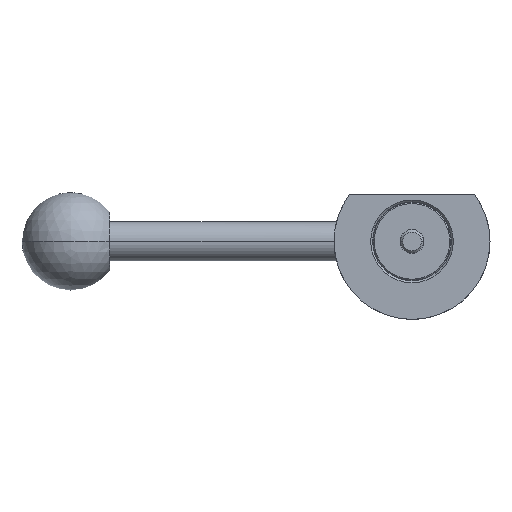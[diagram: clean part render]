
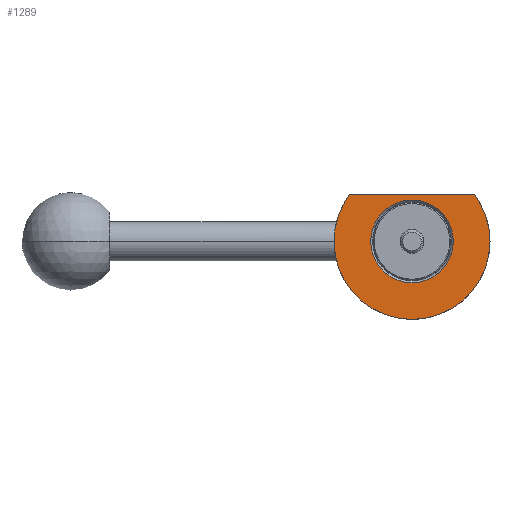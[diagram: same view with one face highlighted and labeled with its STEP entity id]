
A CAD part, front view. The second image highlights one B-rep face of the part: STEP entity #1289.
In plain terms, the highlighted planar face has unit normal (0, -1, 0).
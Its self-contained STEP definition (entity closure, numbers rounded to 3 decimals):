
#25 = VERTEX_POINT ( 'NONE', #1083 ) ;
#47 = AXIS2_PLACEMENT_3D ( 'NONE', #820, #1571, #169 ) ;
#126 = ORIENTED_EDGE ( 'NONE', *, *, #1240, .F. ) ;
#130 = VERTEX_POINT ( 'NONE', #1406 ) ;
#145 = DIRECTION ( 'NONE',  ( 0., 1., 0. ) ) ;
#158 = DIRECTION ( 'NONE',  ( -1., 0., 0. ) ) ;
#168 = DIRECTION ( 'NONE',  ( -1., 0., 0. ) ) ;
#169 = DIRECTION ( 'NONE',  ( -1., 0., 0. ) ) ;
#203 = EDGE_CURVE ( 'NONE', #1901, #1988, #929, .T. ) ;
#258 = EDGE_LOOP ( 'NONE', ( #126, #1148, #623, #605 ) ) ;
#284 = VERTEX_POINT ( 'NONE', #1754 ) ;
#326 = LINE ( 'NONE', #947, #1940 ) ;
#352 = CIRCLE ( 'NONE', #807, 20. ) ;
#471 = DIRECTION ( 'NONE',  ( 1., 0., 0. ) ) ;
#522 = EDGE_CURVE ( 'NONE', #130, #25, #1812, .T. ) ;
#605 = ORIENTED_EDGE ( 'NONE', *, *, #203, .F. ) ;
#623 = ORIENTED_EDGE ( 'NONE', *, *, #1168, .F. ) ;
#660 = CARTESIAN_POINT ( 'NONE',  ( 0., -10., 0. ) ) ;
#755 = CARTESIAN_POINT ( 'NONE',  ( 0., -10., 0. ) ) ;
#761 = EDGE_CURVE ( 'NONE', #284, #1247, #326, .T. ) ;
#770 = CARTESIAN_POINT ( 'NONE',  ( -10.6, -10., 0. ) ) ;
#807 = AXIS2_PLACEMENT_3D ( 'NONE', #1987, #1099, #1680 ) ;
#820 = CARTESIAN_POINT ( 'NONE',  ( 0., -10., 0. ) ) ;
#856 = CARTESIAN_POINT ( 'NONE',  ( -20., -10., 0. ) ) ;
#874 = AXIS2_PLACEMENT_3D ( 'NONE', #1043, #1522, #1209 ) ;
#904 = FACE_OUTER_BOUND ( 'NONE', #258, .T. ) ;
#913 = DIRECTION ( 'NONE',  ( 0., -1., 0. ) ) ;
#929 = CIRCLE ( 'NONE', #47, 20. ) ;
#932 = EDGE_CURVE ( 'NONE', #25, #130, #1129, .T. ) ;
#947 = CARTESIAN_POINT ( 'NONE',  ( -10.6, -10., 11.999 ) ) ;
#1043 = CARTESIAN_POINT ( 'NONE',  ( 0., -10., 0. ) ) ;
#1083 = CARTESIAN_POINT ( 'NONE',  ( -10.6, -10., 0. ) ) ;
#1096 = AXIS2_PLACEMENT_3D ( 'NONE', #755, #145, #158 ) ;
#1099 = DIRECTION ( 'NONE',  ( 0., 1., 0. ) ) ;
#1129 = CIRCLE ( 'NONE', #1198, 10.6 ) ;
#1148 = ORIENTED_EDGE ( 'NONE', *, *, #761, .T. ) ;
#1168 = EDGE_CURVE ( 'NONE', #1988, #1247, #352, .T. ) ;
#1198 = AXIS2_PLACEMENT_3D ( 'NONE', #660, #1921, #1899 ) ;
#1209 = DIRECTION ( 'NONE',  ( -1., 0., 0. ) ) ;
#1240 = EDGE_CURVE ( 'NONE', #284, #1901, #1977, .T. ) ;
#1247 = VERTEX_POINT ( 'NONE', #1719 ) ;
#1250 = ORIENTED_EDGE ( 'NONE', *, *, #522, .T. ) ;
#1289 = ADVANCED_FACE ( 'NONE', ( #1870, #904 ), #1373, .T. ) ;
#1373 = PLANE ( 'NONE',  #1779 ) ;
#1406 = CARTESIAN_POINT ( 'NONE',  ( 10.6, -10., 0. ) ) ;
#1522 = DIRECTION ( 'NONE',  ( 0., 1., 0. ) ) ;
#1531 = ORIENTED_EDGE ( 'NONE', *, *, #932, .T. ) ;
#1571 = DIRECTION ( 'NONE',  ( 0., 1., 0. ) ) ;
#1680 = DIRECTION ( 'NONE',  ( -1., 0., 0. ) ) ;
#1719 = CARTESIAN_POINT ( 'NONE',  ( -16.001, -10., 11.999 ) ) ;
#1754 = CARTESIAN_POINT ( 'NONE',  ( 16.001, -10., 11.999 ) ) ;
#1779 = AXIS2_PLACEMENT_3D ( 'NONE', #770, #913, #471 ) ;
#1797 = EDGE_LOOP ( 'NONE', ( #1250, #1531 ) ) ;
#1810 = CARTESIAN_POINT ( 'NONE',  ( 20., -10., 0. ) ) ;
#1812 = CIRCLE ( 'NONE', #874, 10.6 ) ;
#1870 = FACE_BOUND ( 'NONE', #1797, .T. ) ;
#1899 = DIRECTION ( 'NONE',  ( -1., 0., 0. ) ) ;
#1901 = VERTEX_POINT ( 'NONE', #1810 ) ;
#1921 = DIRECTION ( 'NONE',  ( 0., 1., 0. ) ) ;
#1940 = VECTOR ( 'NONE', #168, 1000. ) ;
#1977 = CIRCLE ( 'NONE', #1096, 20. ) ;
#1987 = CARTESIAN_POINT ( 'NONE',  ( 0., -10., 0. ) ) ;
#1988 = VERTEX_POINT ( 'NONE', #856 ) ;
